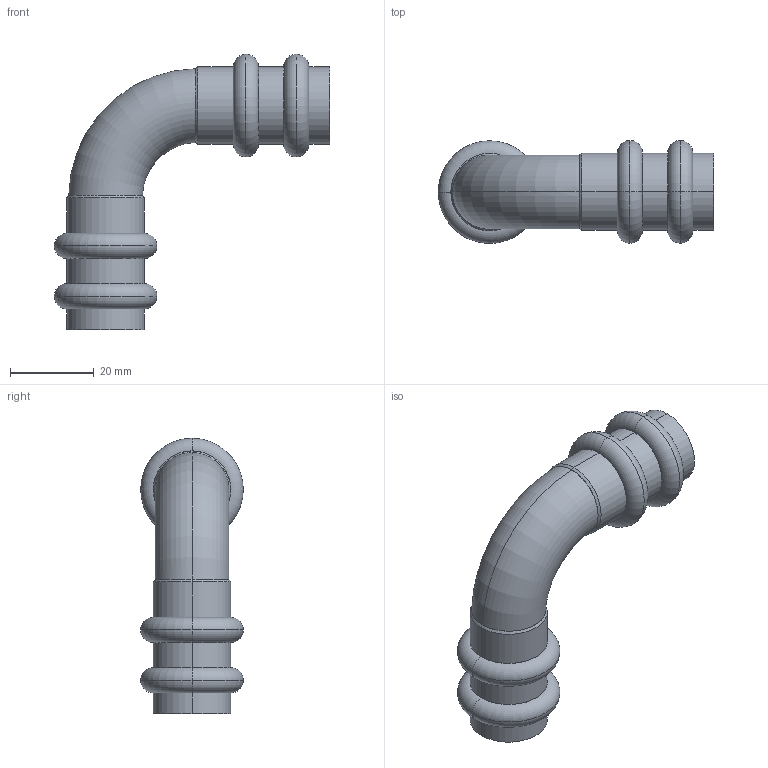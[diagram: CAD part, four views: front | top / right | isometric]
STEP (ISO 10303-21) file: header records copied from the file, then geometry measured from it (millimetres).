
FILE_DESCRIPTION(('starvars output'),'1');
FILE_NAME('cv20240422104913000011569.stp','10:49:13 2024/04/22',('Thomas Industrial Network Germany GmbH'),(' '),'Spatial InterOp 3D',' ',' ');
FILE_SCHEMA(('AUTOMOTIVE_DESIGN { 1 0 10303 214 3 1 1 }'));
Length unit declared in the file: millimetre
Products named in the file (1): 1
Bounding box: 65.75 x 24.5 x 65.75 mm (x, y, z)
Volume: 8775.5 mm3; surface area: 12471.2 mm2
Topology: 1 solids, 1 shells, 70 faces, 140 edges, 88 vertices
Faces by surface type: torus 28, cylinder 20, plane 18, cone 4
Entity records: 2724 total; most frequent: CARTESIAN_POINT 575, DIRECTION 390, ORIENTED_EDGE 280, AXIS2_PLACEMENT_3D 183, EDGE_CURVE 140, CIRCLE 112, EDGE_LOOP 88, VERTEX_POINT 88
